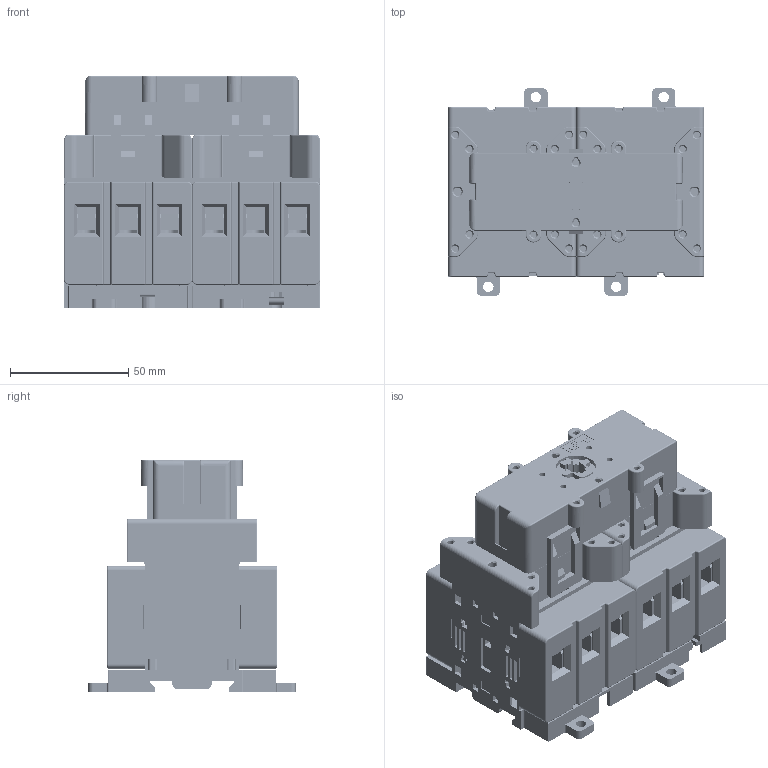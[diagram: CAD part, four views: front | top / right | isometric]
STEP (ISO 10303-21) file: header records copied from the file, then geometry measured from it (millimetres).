
FILE_DESCRIPTION((''),'2;1');
FILE_NAME('10007842628_ASM','2024-03-01T09:45:45',('LEQuenti'),('Rockwell Automation'),'CREO PARAMETRIC BY PTC INC, 2020281','CREO PARAMETRIC BY PTC INC, 2020281','');
FILE_SCHEMA(('CONFIG_CONTROL_DESIGN'));
Products named in the file (12): 10007842627; 10007816243; 10007816242; 10007816241; 10007816239; 10007816238; 10007816236; 10007816235; 10007816237; 10007833138; 10007835745_ASM; 10007842628_ASM
Assembly tree (22 placements, depth 3):
  10007842628_ASM
    10007842627
    10007835745_ASM  x2
      10007816243
      10007816242
      10007816241
      10007816239
      10007816238
      10007816236
      10007816235
      10007816237
      10007833138
    10007833138
Bounding box: 108 x 87.6 x 98.25 mm (x, y, z)
Volume: 309855.9 mm3; surface area: 302892.7 mm2
Topology: 38 solids, 42 shells, 8470 faces, 24537 edges, 16362 vertices
Faces by surface type: plane 5210, cylinder 2672, cone 286, bspline 146, torus 124, sphere 32
Entity records: 117866 total; most frequent: CARTESIAN_POINT 27812, ORIENTED_EDGE 19364, DIRECTION 18375, EDGE_CURVE 9682, VECTOR 6763, LINE 6763, VERTEX_POINT 6469, AXIS2_PLACEMENT_3D 5806
